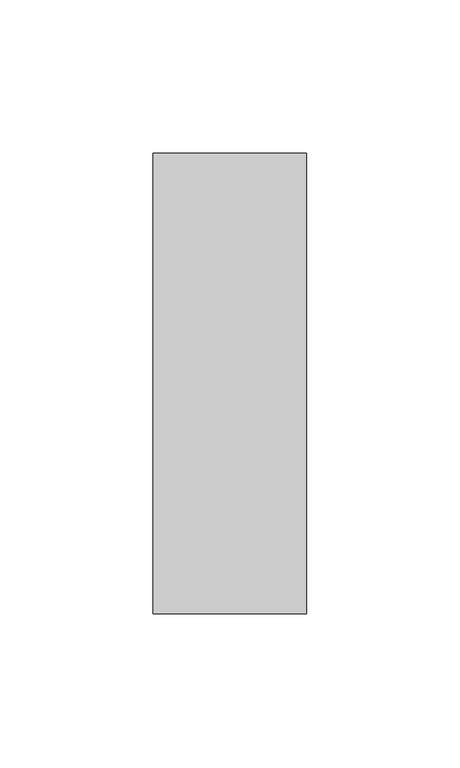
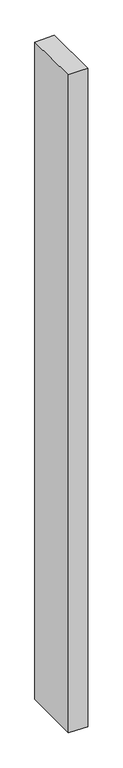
"""IFC4 building model written with IfcOpenShell, lengths in millimetres: member geometry, Прямоугольный импост : 50 x 150 мм."""

from ifc_helpers import new_model, si_unit, origin, place, context, project, spatial, faceted_brep, source, transform, mapped, element, save


def member_8e8ac7e7(model_context):
    return source(origin(), model_context, "Body", "Brep", [
        faceted_brep([(-25.0, 75.0, -1.199649), (25.0, 75.0, -0.2582155), (25.0, 75.0, -1801.9753883), (-25.0, 75.0, -1801.2128638), (-25.0, -75.0, 0.2582155), (-25.0, -75.0, -1801.6027128), (25.0, -75.0, 1.199649), (25.0, -75.0, -1802.3652373)], [[[0, 1, 2, 3]], [[4, 0, 3, 5]], [[6, 4, 5, 7]], [[1, 6, 7, 2]], [[1, 0, 4, 6]], [[2, 7, 5, 3]]]),
    ])


if __name__ == "__main__":
    model = new_model("IFC4")
    model_context = context("Model", 3, world=origin())
    ifc_project = project(units=[si_unit("LENGTHUNIT", "METRE", prefix="MILLI")], contexts=[model_context])
    site = spatial("IfcSite", under=ifc_project)
    building = spatial("IfcBuilding", under=site)
    placement = place(None, origin())
    member_shape = member_8e8ac7e7(model_context)
    element("IfcMember", 1, ObjectType="Прямоугольный импост : 50 x 150 мм", at=placement, inside=building, context=model_context, shape_type="MappedRepresentation", body=[
        mapped(member_shape, transform((0.0, 0.0, 0.0), x_axis=(1.0, 0.0, 0.0), y_axis=(0.0, 1.0, 0.0), z_axis=(0.0, 0.0, 1.0))),
    ])
    save(model, "model.ifc")
